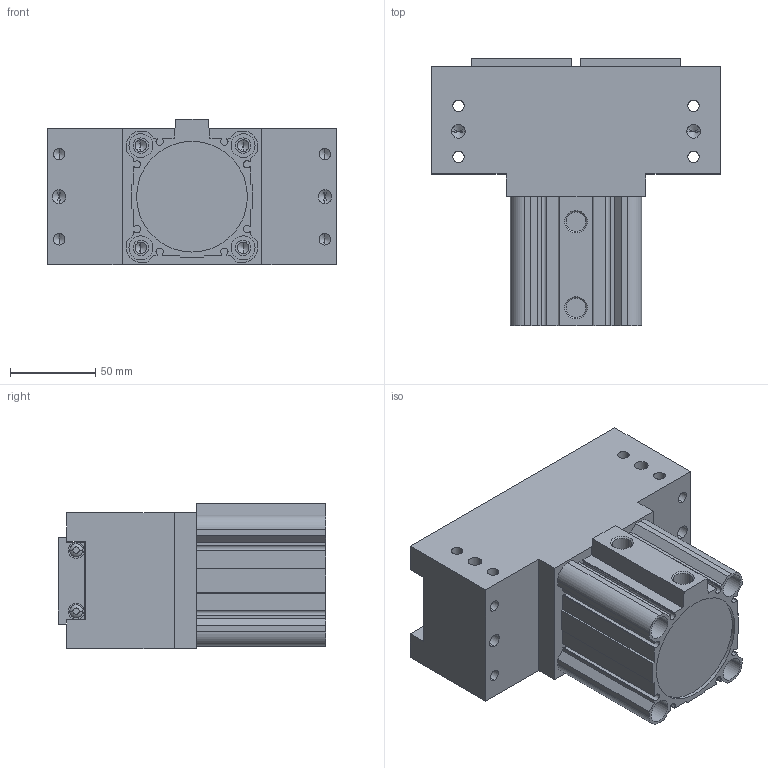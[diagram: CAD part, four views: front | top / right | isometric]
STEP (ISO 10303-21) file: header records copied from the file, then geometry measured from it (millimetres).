
FILE_DESCRIPTION (( 'STEP AP203' ), '1' );
FILE_NAME ('PPE-63-S.step', '2017-02-15T12:24:45', ( '' ), ( '' ), 'SwSTEP 2.0', 'SolidWorks 2012', '' );
FILE_SCHEMA (( 'CONFIG_CONTROL_DESIGN' ));
Length unit declared in the file: millimetre
Products named in the file (4): S-63-30; PPE63-2_Predeterminado<Como mecanizada>; PPE63S-1; PPE-63-S
Assembly tree (4 placements, depth 2):
  PPE-63-S
    PPE63S-1
    PPE63-2_Predeterminado<Como mecanizada>  x2
    S-63-30
Bounding box: 170 x 157 x 85.5 mm (x, y, z)
Volume: 1152973.6 mm3; surface area: 166214.5 mm2
Topology: 4 solids, 4 shells, 409 faces, 1002 edges, 620 vertices
Faces by surface type: cylinder 172, plane 139, cone 82, torus 16
Entity records: 9890 total; most frequent: CARTESIAN_POINT 1767, DIRECTION 1700, ORIENTED_EDGE 1514, EDGE_CURVE 757, AXIS2_PLACEMENT_3D 635, VERTEX_POINT 490, LINE 430, VECTOR 430
